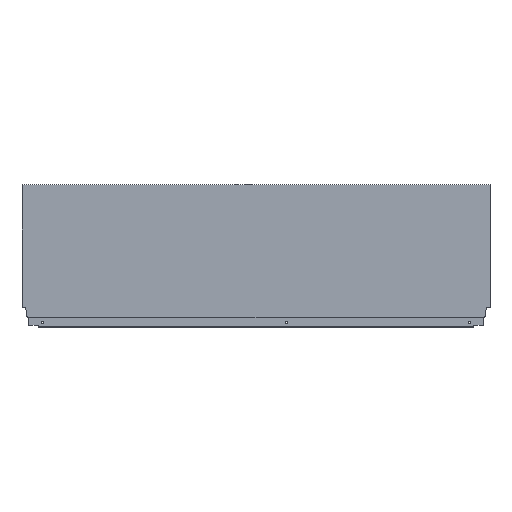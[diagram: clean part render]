
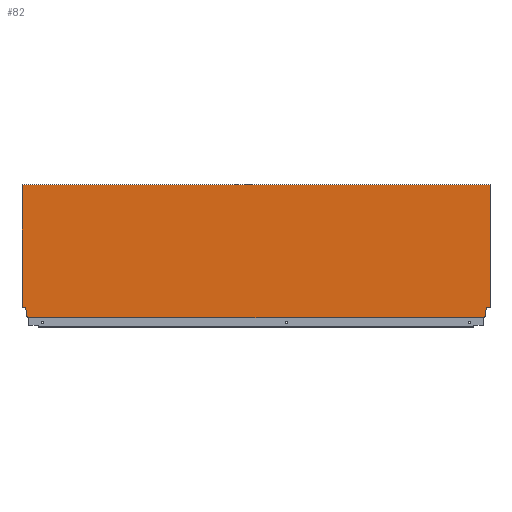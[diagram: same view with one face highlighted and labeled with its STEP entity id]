
A CAD part, top view. The second image highlights one B-rep face of the part: STEP entity #82.
In plain terms, the highlighted planar face has unit normal (0, 0, 1).
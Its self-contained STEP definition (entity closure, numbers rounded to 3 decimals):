
#82 = ADVANCED_FACE ( 'NONE', ( #660 ), #906, .T. ) ;
#230 = EDGE_LOOP ( 'NONE', ( #337, #338, #339, #340, #341, #342, #343, #344, #345, #346, #347, #348, #349, #350 ) ) ;
#337 = ORIENTED_EDGE ( 'NONE', *, *, #1332, .T. ) ;
#338 = ORIENTED_EDGE ( 'NONE', *, *, #1331, .F. ) ;
#339 = ORIENTED_EDGE ( 'NONE', *, *, #1330, .F. ) ;
#340 = ORIENTED_EDGE ( 'NONE', *, *, #1333, .F. ) ;
#341 = ORIENTED_EDGE ( 'NONE', *, *, #1334, .F. ) ;
#342 = ORIENTED_EDGE ( 'NONE', *, *, #1335, .F. ) ;
#343 = ORIENTED_EDGE ( 'NONE', *, *, #1316, .T. ) ;
#344 = ORIENTED_EDGE ( 'NONE', *, *, #1337, .F. ) ;
#345 = ORIENTED_EDGE ( 'NONE', *, *, #1339, .F. ) ;
#346 = ORIENTED_EDGE ( 'NONE', *, *, #1336, .F. ) ;
#347 = ORIENTED_EDGE ( 'NONE', *, *, #1338, .F. ) ;
#348 = ORIENTED_EDGE ( 'NONE', *, *, #1340, .F. ) ;
#349 = ORIENTED_EDGE ( 'NONE', *, *, #1341, .F. ) ;
#350 = ORIENTED_EDGE ( 'NONE', *, *, #1342, .F. ) ;
#551 = VECTOR ( 'NONE', #939, 1000. ) ;
#553 = VECTOR ( 'NONE', #942, 1000. ) ;
#555 = VECTOR ( 'NONE', #944, 1000. ) ;
#556 = LINE ( 'NONE', #943, #551 ) ;
#557 = VECTOR ( 'NONE', #947, 1000. ) ;
#558 = VECTOR ( 'NONE', #950, 1000. ) ;
#559 = LINE ( 'NONE', #951, #558 ) ;
#560 = LINE ( 'NONE', #946, #553 ) ;
#561 = VECTOR ( 'NONE', #954, 1000. ) ;
#562 = VECTOR ( 'NONE', #956, 1000. ) ;
#563 = LINE ( 'NONE', #957, #562 ) ;
#564 = LINE ( 'NONE', #948, #555 ) ;
#565 = VECTOR ( 'NONE', #958, 1000. ) ;
#566 = LINE ( 'NONE', #955, #557 ) ;
#567 = VECTOR ( 'NONE', #961, 1000. ) ;
#568 = VECTOR ( 'NONE', #964, 1000. ) ;
#569 = LINE ( 'NONE', #965, #568 ) ;
#570 = LINE ( 'NONE', #959, #561 ) ;
#571 = VECTOR ( 'NONE', #967, 1000. ) ;
#572 = LINE ( 'NONE', #962, #565 ) ;
#573 = VECTOR ( 'NONE', #969, 1000. ) ;
#574 = VECTOR ( 'NONE', #973, 1000. ) ;
#575 = LINE ( 'NONE', #974, #574 ) ;
#576 = LINE ( 'NONE', #968, #567 ) ;
#578 = LINE ( 'NONE', #971, #571 ) ;
#580 = LINE ( 'NONE', #978, #573 ) ;
#602 = LINE ( 'NONE', #1020, #609 ) ;
#609 = VECTOR ( 'NONE', #1019, 1000. ) ;
#660 = FACE_OUTER_BOUND ( 'NONE', #230, .T. ) ;
#868 = DIRECTION ( 'NONE',  ( 1., 0., 0. ) ) ;
#872 = DIRECTION ( 'NONE',  ( 0., 0., 1. ) ) ;
#895 = CARTESIAN_POINT ( 'NONE',  ( -917., 0., 8. ) ) ;
#906 = PLANE ( 'NONE',  #1451 ) ;
#939 = DIRECTION ( 'NONE',  ( 1., 0., 0. ) ) ;
#942 = DIRECTION ( 'NONE',  ( 0., -1., 0. ) ) ;
#943 = CARTESIAN_POINT ( 'NONE',  ( -917., 260.7, 8. ) ) ;
#944 = DIRECTION ( 'NONE',  ( -1., 0., 0. ) ) ;
#946 = CARTESIAN_POINT ( 'NONE',  ( 0., 0., 8. ) ) ;
#947 = DIRECTION ( 'NONE',  ( -0.94, -0.342, 0. ) ) ;
#948 = CARTESIAN_POINT ( 'NONE',  ( 0., 21.2, 8. ) ) ;
#950 = DIRECTION ( 'NONE',  ( -0.174, -0.985, 0. ) ) ;
#951 = CARTESIAN_POINT ( 'NONE',  ( -7.06, 21.2, 8. ) ) ;
#954 = DIRECTION ( 'NONE',  ( 0., -1., 0. ) ) ;
#955 = CARTESIAN_POINT ( 'NONE',  ( -8.9, 2.64, 8. ) ) ;
#956 = DIRECTION ( 'NONE',  ( 0., -1., 0. ) ) ;
#957 = CARTESIAN_POINT ( 'NONE',  ( -8.9, 10.765, 8. ) ) ;
#958 = DIRECTION ( 'NONE',  ( 0., 1., 0. ) ) ;
#959 = CARTESIAN_POINT ( 'NONE',  ( -13.004, 1.146, 8. ) ) ;
#961 = DIRECTION ( 'NONE',  ( -0.94, 0.342, 0. ) ) ;
#962 = CARTESIAN_POINT ( 'NONE',  ( -903.996, 1.146, 8. ) ) ;
#964 = DIRECTION ( 'NONE',  ( 0., 1., 0. ) ) ;
#965 = CARTESIAN_POINT ( 'NONE',  ( -908.1, 10.765, 8. ) ) ;
#967 = DIRECTION ( 'NONE',  ( 0., -1., 0. ) ) ;
#968 = CARTESIAN_POINT ( 'NONE',  ( -908.1, 2.64, 8. ) ) ;
#969 = DIRECTION ( 'NONE',  ( -1., 0., 0. ) ) ;
#971 = CARTESIAN_POINT ( 'NONE',  ( -917., 0., 8. ) ) ;
#972 = VERTEX_POINT ( 'NONE', #1156 ) ;
#973 = DIRECTION ( 'NONE',  ( -0.174, 0.985, 0. ) ) ;
#974 = CARTESIAN_POINT ( 'NONE',  ( -909.94, 21.2, 8. ) ) ;
#978 = CARTESIAN_POINT ( 'NONE',  ( -922., 21.2, 8. ) ) ;
#979 = VERTEX_POINT ( 'NONE', #1178 ) ;
#1019 = DIRECTION ( 'NONE',  ( 1., 0., 0. ) ) ;
#1020 = CARTESIAN_POINT ( 'NONE',  ( -917., 0., 8. ) ) ;
#1032 = VERTEX_POINT ( 'NONE', #1134 ) ;
#1040 = VERTEX_POINT ( 'NONE', #1129 ) ;
#1058 = VERTEX_POINT ( 'NONE', #1121 ) ;
#1067 = VERTEX_POINT ( 'NONE', #1117 ) ;
#1081 = VERTEX_POINT ( 'NONE', #1110 ) ;
#1082 = CARTESIAN_POINT ( 'NONE',  ( -917., 260.7, 8. ) ) ;
#1084 = CARTESIAN_POINT ( 'NONE',  ( -13.004, 1.146, 8. ) ) ;
#1088 = CARTESIAN_POINT ( 'NONE',  ( -908.1, 2.64, 8. ) ) ;
#1092 = CARTESIAN_POINT ( 'NONE',  ( -7.06, 21.2, 8. ) ) ;
#1095 = VERTEX_POINT ( 'NONE', #1107 ) ;
#1098 = VERTEX_POINT ( 'NONE', #1104 ) ;
#1101 = CARTESIAN_POINT ( 'NONE',  ( -13.004, 0., 8. ) ) ;
#1103 = VERTEX_POINT ( 'NONE', #1101 ) ;
#1104 = CARTESIAN_POINT ( 'NONE',  ( 0., 21.2, 8. ) ) ;
#1107 = CARTESIAN_POINT ( 'NONE',  ( -903.996, 1.146, 8. ) ) ;
#1110 = CARTESIAN_POINT ( 'NONE',  ( -908.1, 10.765, 8. ) ) ;
#1117 = CARTESIAN_POINT ( 'NONE',  ( -8.9, 10.765, 8. ) ) ;
#1120 = VERTEX_POINT ( 'NONE', #1092 ) ;
#1121 = CARTESIAN_POINT ( 'NONE',  ( -917., 21.2, 8. ) ) ;
#1129 = CARTESIAN_POINT ( 'NONE',  ( -909.94, 21.2, 8. ) ) ;
#1131 = VERTEX_POINT ( 'NONE', #1088 ) ;
#1134 = CARTESIAN_POINT ( 'NONE',  ( -903.996, 0., 8. ) ) ;
#1147 = VERTEX_POINT ( 'NONE', #1084 ) ;
#1155 = VERTEX_POINT ( 'NONE', #1082 ) ;
#1156 = CARTESIAN_POINT ( 'NONE',  ( -8.9, 2.64, 8. ) ) ;
#1178 = CARTESIAN_POINT ( 'NONE',  ( 0., 260.7, 8. ) ) ;
#1316 = EDGE_CURVE ( 'NONE', #1032, #1103, #602, .T. ) ;
#1330 = EDGE_CURVE ( 'NONE', #1081, #1040, #575, .T. ) ;
#1331 = EDGE_CURVE ( 'NONE', #1040, #1058, #580, .T. ) ;
#1332 = EDGE_CURVE ( 'NONE', #1155, #1058, #578, .T. ) ;
#1333 = EDGE_CURVE ( 'NONE', #1131, #1081, #569, .T. ) ;
#1334 = EDGE_CURVE ( 'NONE', #1095, #1131, #576, .T. ) ;
#1335 = EDGE_CURVE ( 'NONE', #1032, #1095, #572, .T. ) ;
#1336 = EDGE_CURVE ( 'NONE', #1067, #972, #563, .T. ) ;
#1337 = EDGE_CURVE ( 'NONE', #1147, #1103, #570, .T. ) ;
#1338 = EDGE_CURVE ( 'NONE', #1120, #1067, #559, .T. ) ;
#1339 = EDGE_CURVE ( 'NONE', #972, #1147, #566, .T. ) ;
#1340 = EDGE_CURVE ( 'NONE', #1098, #1120, #564, .T. ) ;
#1341 = EDGE_CURVE ( 'NONE', #979, #1098, #560, .T. ) ;
#1342 = EDGE_CURVE ( 'NONE', #1155, #979, #556, .T. ) ;
#1451 = AXIS2_PLACEMENT_3D ( 'NONE', #895, #872, #868 ) ;
